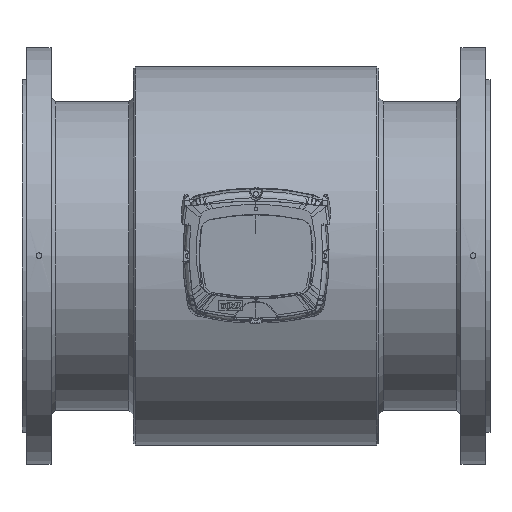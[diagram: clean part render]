
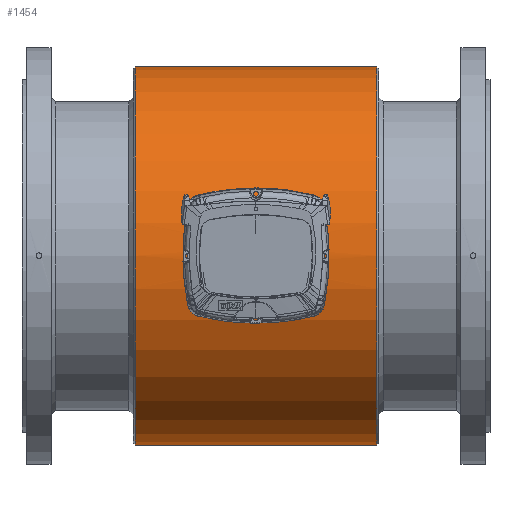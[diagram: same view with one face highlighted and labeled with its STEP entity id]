
A CAD part, top view. The second image highlights one B-rep face of the part: STEP entity #1454.
In plain terms, the highlighted cylindrical face has radius 202 mm (diameter 404 mm), a full revolution.
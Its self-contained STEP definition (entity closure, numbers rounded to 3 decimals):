
#1389=CARTESIAN_POINT('',(0.,-11.497,201.673));
#1390=VERTEX_POINT('',#1389);
#1400=CARTESIAN_POINT('',(0.,-11.498,201.672));
#1401=CARTESIAN_POINT('',(1.742,-11.498,201.672));
#1402=CARTESIAN_POINT('',(5.226,-10.712,201.719));
#1403=CARTESIAN_POINT('',(9.417,-7.415,201.878));
#1404=CARTESIAN_POINT('',(11.742,-2.646,202.005));
#1405=CARTESIAN_POINT('',(11.743,2.646,202.005));
#1406=CARTESIAN_POINT('',(9.415,7.415,201.878));
#1407=CARTESIAN_POINT('',(5.693,10.345,201.737));
#1408=CARTESIAN_POINT('',(1.76,11.54,201.67));
#1409=CARTESIAN_POINT('',(-1.76,11.538,201.67));
#1410=CARTESIAN_POINT('',(-6.259,10.179,201.747));
#1411=CARTESIAN_POINT('',(-9.81,6.919,201.9));
#1412=CARTESIAN_POINT('',(-11.739,2.056,202.005));
#1413=CARTESIAN_POINT('',(-11.744,-2.645,202.005));
#1414=CARTESIAN_POINT('',(-9.416,-7.416,201.878));
#1415=CARTESIAN_POINT('',(-5.227,-10.711,201.719));
#1416=CARTESIAN_POINT('',(-1.742,-11.498,201.672));
#1417=CARTESIAN_POINT('',(0.,-11.498,201.672));
#1418=B_SPLINE_CURVE_WITH_KNOTS('',3,(#1400,#1401,#1402,#1403,#1404,#1405,#1406,#1407,#1408,#1409,#1410,#1411,#1412,#1413,#1414,#1415,#1416,#1417),.UNSPECIFIED.,.T.,.U.,(4,1,1,1,1,1,1,1,1,1,1,1,1,1,1,4),(-7.286,-6.765,-6.245,-5.725,-5.204,-4.684,-4.163,-3.816,-3.469,-3.123,-2.429,-2.082,-1.561,-1.041,-0.52,0.0),.UNSPECIFIED.);
#1419=EDGE_CURVE('',#1390,#1390,#1418,.T.);
#1424=CARTESIAN_POINT('',(64.5,0.0,0.0));
#1425=DIRECTION('',(1.0,0.0,0.0));
#1426=DIRECTION('',(0.0,1.0,0.0));
#1427=AXIS2_PLACEMENT_3D('',#1424,#1425,#1426);
#1428=CYLINDRICAL_SURFACE('',#1427,202.);
#1429=CARTESIAN_POINT('',(-129.,202.0,0.0));
#1430=VERTEX_POINT('',#1429);
#1431=CARTESIAN_POINT('',(-129.,0.0,0.0));
#1432=DIRECTION('',(1.0,0.0,0.0));
#1433=DIRECTION('',(0.0,1.0,0.0));
#1434=AXIS2_PLACEMENT_3D('',#1431,#1432,#1433);
#1435=CIRCLE('',#1434,202.0);
#1436=EDGE_CURVE('',#1430,#1430,#1435,.T.);
#1437=ORIENTED_EDGE('',*,*,#1436,.T.);
#1438=EDGE_LOOP('',(#1437));
#1439=FACE_OUTER_BOUND('',#1438,.T.);
#1440=CARTESIAN_POINT('',(129.0,202.0,0.0));
#1441=VERTEX_POINT('',#1440);
#1442=CARTESIAN_POINT('',(129.0,0.0,0.0));
#1443=DIRECTION('',(1.0,0.0,0.0));
#1444=DIRECTION('',(0.0,1.0,0.0));
#1445=AXIS2_PLACEMENT_3D('',#1442,#1443,#1444);
#1446=CIRCLE('',#1445,202.0);
#1447=EDGE_CURVE('',#1441,#1441,#1446,.T.);
#1448=ORIENTED_EDGE('',*,*,#1447,.F.);
#1449=EDGE_LOOP('',(#1448));
#1450=FACE_BOUND('',#1449,.T.);
#1451=ORIENTED_EDGE('',*,*,#1419,.F.);
#1452=EDGE_LOOP('',(#1451));
#1453=FACE_BOUND('',#1452,.T.);
#1454=ADVANCED_FACE('',(#1439,#1450,#1453),#1428,.T.);
